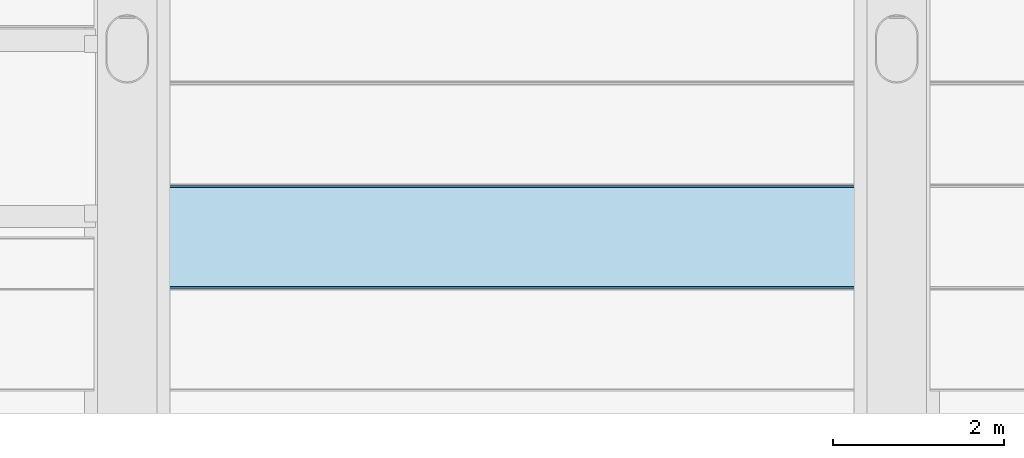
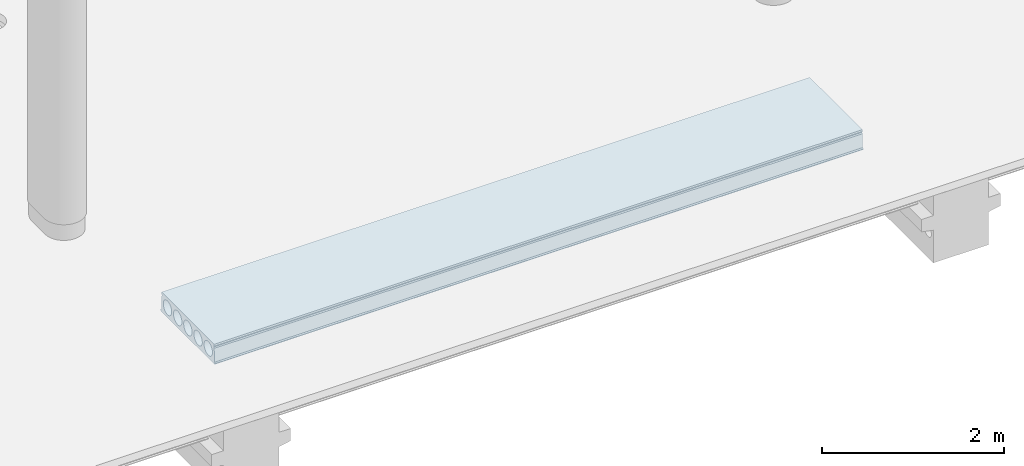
# One storey, part 9 of 34: 1 slab.
"""IFC2X3 building model written with IfcOpenShell, lengths in millimetres."""

import ifcopenshell
import ifcopenshell.guid

model = None  # the IFC model being written
_history = None  # IfcOwnerHistory: only IFC2X3 demands one
_inside = {}  # id of a spatial element -> (the spatial element, [elements in it])
_under = {}  # id of a project, library or spatial element -> (it, [spatial elements below it])
_declared = {}  # id of a project -> (the project, [libraries it declares])
_typed = {}  # id of a type object -> (the type object, [elements of that type])
_made_of = {}  # id of a material, layer set ... -> (it, [elements and type objects made of it])


def new_model(schema):
    """Start an empty IFC model of exactly this schema.

    Asked for "IFC4X3", IfcOpenShell would pick the latest addendum, in which some entities
    have other attributes; the version numbers below select the first issue.
    IFC2X3 requires an IfcOwnerHistory on every rooted entity: one is made here for all.
    """
    global model, _history
    if schema == "IFC4X3":
        model = ifcopenshell.file(schema_version=(4, 3, 0, 0))
    else:
        model = ifcopenshell.file(schema=schema)
    _inside.clear()
    _under.clear()
    _declared.clear()
    _typed.clear()
    _made_of.clear()
    _history = None
    if model.schema == "IFC2X3":
        org = make("IfcOrganization", Name="unknown")
        user = make(
            "IfcPersonAndOrganization",
            ThePerson=make("IfcPerson", FamilyName="unknown"),
            TheOrganization=org,
        )
        app = make(
            "IfcApplication",
            ApplicationDeveloper=org,
            Version="unknown",
            ApplicationFullName="unknown",
            ApplicationIdentifier="unknown",
        )
        _history = make(
            "IfcOwnerHistory",
            OwningUser=user,
            OwningApplication=app,
            ChangeAction="ADDED",
            CreationDate=0,
        )
    return model


def make(cls, **values):
    """One entity of the class cls with the attributes given. An attribute that is None is left unset."""
    return model.create_entity(
        cls, **{name: value for name, value in values.items() if value is not None}
    )


def entity(cls, *values):
    """Any entity or typed value of the class cls, its attributes in the order of the schema. None: left unset."""
    e = model.create_entity(cls)
    for i, value in enumerate(values):
        if value is not None:
            e[i] = value
    return e


def rooted(cls, **values):
    """An entity with a GlobalId (a new one), such as an element, a storey or a relation."""
    return make(cls, GlobalId=ifcopenshell.guid.new(), OwnerHistory=_history, **values)


def si_unit(unit_type, name, prefix=None):
    """IfcSIUnit, for example si_unit("LENGTHUNIT", "METRE", prefix="MILLI")."""
    return make("IfcSIUnit", UnitType=unit_type, Prefix=prefix, Name=name)


def converted_unit(unit_type, name, factor, base, dimensions=None, offset=None):
    """IfcConversionBasedUnit, such as the inch: factor (a typed value) times the base unit."""
    return make(
        "IfcConversionBasedUnit"
        if offset is None
        else "IfcConversionBasedUnitWithOffset",
        ConversionOffset=offset,
        Dimensions=None
        if dimensions is None
        else entity("IfcDimensionalExponents", *dimensions),
        UnitType=unit_type,
        Name=name,
        ConversionFactor=make(
            "IfcMeasureWithUnit", ValueComponent=factor, UnitComponent=base
        ),
    )


def derived_unit(unit_type, elements):
    """IfcDerivedUnit: a product of units, each with its exponent."""
    return make(
        "IfcDerivedUnit",
        Elements=[
            make("IfcDerivedUnitElement", Unit=unit, Exponent=power)
            for unit, power in elements
        ],
        UnitType=unit_type,
    )


def assignment(units):
    """IfcUnitAssignment: the units of a project."""
    return None if units is None else make("IfcUnitAssignment", Units=units)


def point(xyz):
    """IfcCartesianPoint."""
    return None if xyz is None else make("IfcCartesianPoint", Coordinates=xyz)


def direction(xyz):
    """IfcDirection."""
    return None if xyz is None else make("IfcDirection", DirectionRatios=xyz)


def frame(location, z_axis=None, x_axis=None):
    """IfcAxis2Placement3D, a coordinate frame: its origin and axes. An axis left out is left unset."""
    return make(
        "IfcAxis2Placement3D",
        Location=point(location),
        Axis=direction(z_axis),
        RefDirection=direction(x_axis),
    )


def origin_with_axes():
    """The frame at (0, 0, 0) with the z axis (0, 0, 1) and the x axis (1, 0, 0) written out."""
    return frame((0.0, 0.0, 0.0), z_axis=(0.0, 0.0, 1.0), x_axis=(1.0, 0.0, 0.0))


def place(relative_to, where):
    """IfcLocalPlacement: puts the frame where relative to a parent placement (None: the world)."""
    return make(
        "IfcLocalPlacement", PlacementRelTo=relative_to, RelativePlacement=where
    )


def context(
    kind, dimensions, precision=None, world=None, true_north=None, identifier=None
):
    """IfcGeometricRepresentationContext, for example the 3D "Model" context."""
    return make(
        "IfcGeometricRepresentationContext",
        ContextIdentifier=identifier,
        ContextType=kind,
        CoordinateSpaceDimension=dimensions,
        Precision=precision,
        WorldCoordinateSystem=world,
        TrueNorth=true_north,
    )


def subcontext(parent, identifier, kind, view, scale=None):
    """IfcGeometricRepresentationSubContext, for example "Body" below "Model"."""
    return make(
        "IfcGeometricRepresentationSubContext",
        ContextIdentifier=identifier,
        ContextType=kind,
        ParentContext=parent,
        TargetScale=scale,
        TargetView=view,
    )


def project(units=None, contexts=None):
    """IfcProject with its units and contexts."""
    return rooted(
        "IfcProject",
        Name="project",
        RepresentationContexts=contexts,
        UnitsInContext=assignment(units),
    )


def spatial(cls, under=None, at=None, **own):
    """A site, building, storey or space (cls), placed at a placement, below another one or the project."""
    s = rooted(cls, ObjectPlacement=at, **own)
    if under is not None:
        _under.setdefault(under.id(), (under, []))[1].append(s)
    return s


def polyline(points):
    """IfcPolyline through the points."""
    return make("IfcPolyline", Points=[point(p) for p in points])


def outline(outer, holes=None, kind="AREA"):
    """IfcArbitraryClosedProfileDef: a profile drawn as a closed curve; with holes, ...WithVoids."""
    if holes is None:
        return make("IfcArbitraryClosedProfileDef", ProfileType=kind, OuterCurve=outer)
    return make(
        "IfcArbitraryProfileDefWithVoids",
        ProfileType=kind,
        OuterCurve=outer,
        InnerCurves=holes,
    )


def extrude(swept, where, along, depth):
    """IfcExtrudedAreaSolid: the profile swept, set in the frame where, extruded along a direction by depth."""
    return make(
        "IfcExtrudedAreaSolid",
        SweptArea=swept,
        Position=where,
        ExtrudedDirection=direction(along),
        Depth=depth,
    )


def shape(context_of_items, identifier, shape_type, items):
    """IfcShapeRepresentation: the items that make up one representation, for example the "Body"."""
    return make(
        "IfcShapeRepresentation",
        ContextOfItems=context_of_items,
        RepresentationIdentifier=identifier,
        RepresentationType=shape_type,
        Items=items,
    )


def material(Name=None, Category=None):
    """IfcMaterial."""
    return make("IfcMaterial", Name=Name, Category=Category)


def made_of(thing, what):
    """Note that an element or type object is made of a material, layer set ...; save() writes the relation."""
    if what is not None:
        _made_of.setdefault(what.id(), (what, []))[1].append(thing)
    return thing


def type_object(cls, material=None, **own):
    """A type object (cls), such as IfcWallType, which elements share."""
    return made_of(rooted(cls, **own), material)


def element(
    cls,
    number,
    at=None,
    inside=None,
    cuts=None,
    type_object=None,
    material=None,
    context=None,
    identifier="Body",
    shape_type=None,
    held_by="IfcProductDefinitionShape",
    body=None,
    shapes=None,
    **own,
):
    """One element of the class cls, such as IfcWall. Its Tag is "e" and its number.

    at: its placement. inside: the storey or other place that contains it. cuts: it is an
    opening in that element (IfcRelVoidsElement). A single representation is given by context,
    identifier, shape_type and body (its items); several are given by shapes. held_by: the class
    of the entity that holds the representations. save() writes the other relations.
    """
    e = rooted(cls, Tag="e%d" % number, ObjectPlacement=at, **own)
    if body is not None:
        shapes = [shape(context, identifier, shape_type, body)]
    if shapes is not None:
        e.Representation = make(held_by, Representations=shapes)
    if inside is not None:
        _inside.setdefault(inside.id(), (inside, []))[1].append(e)
    if cuts is not None:
        rooted(
            "IfcRelVoidsElement", RelatingBuildingElement=cuts, RelatedOpeningElement=e
        )
    if type_object is not None:
        _typed.setdefault(type_object.id(), (type_object, []))[1].append(e)
    return made_of(e, material)


def aggregate(whole, parts):
    """IfcRelAggregates: a whole, such as a stair, and the parts it consists of."""
    return rooted("IfcRelAggregates", RelatingObject=whole, RelatedObjects=parts)


def save(model, path):
    """Write the relations noted so far, then the file.

    IfcRelAggregates (storeys below a building ...), IfcRelContainedInSpatialStructure (elements
    in a storey), IfcRelDefinesByType, IfcRelAssociatesMaterial and IfcRelDeclares: one each for
    every whole, place, type object, material and project.
    """
    for whole, parts in _under.values():
        aggregate(whole, parts)
    for where, things in _inside.values():
        rooted(
            "IfcRelContainedInSpatialStructure",
            RelatedElements=things,
            RelatingStructure=where,
        )
    for kind, things in _typed.values():
        rooted("IfcRelDefinesByType", RelatedObjects=things, RelatingType=kind)
    for what, things in _made_of.values():
        rooted("IfcRelAssociatesMaterial", RelatedObjects=things, RelatingMaterial=what)
    for by, libraries in _declared.values():
        rooted("IfcRelDeclares", RelatingContext=by, RelatedDefinitions=libraries)
    model.write(path)


model = new_model("IFC2X3")

# Units and contexts
model_context = context("Model", 3, precision=0.01, world=frame((0.0, 4.29681676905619e-09, 0.0)), true_north=direction((4.01073788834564e-13, 1.0)))
plan_context = context("Plan", 3, precision=0.01, world=frame((0.0, 4.29681676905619e-09, 0.0)), true_north=direction((4.01073788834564e-13, 1.0)))
body_context = subcontext(model_context, "Body", "Model", "MODEL_VIEW")
ifc_project = project(units=[converted_unit("PLANEANGLEUNIT", "DEGREE", entity("IfcPositiveLengthMeasure", 0.0174532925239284), si_unit("PLANEANGLEUNIT", "RADIAN"), dimensions=[0, 0, 0, 0, 0, 0, 0]), si_unit("AREAUNIT", "SQUARE_METRE"), si_unit("LENGTHUNIT", "METRE", prefix="MILLI"), si_unit("MASSUNIT", "GRAM", prefix="KILO"), si_unit("POWERUNIT", "WATT"), si_unit("PRESSUREUNIT", "PASCAL"), si_unit("FORCEUNIT", "NEWTON", prefix="KILO"), si_unit("ELECTRICVOLTAGEUNIT", "VOLT"), si_unit("ELECTRICCURRENTUNIT", "AMPERE"), si_unit("THERMODYNAMICTEMPERATUREUNIT", "DEGREE_CELSIUS"), si_unit("TIMEUNIT", "SECOND"), si_unit("VOLUMEUNIT", "CUBIC_METRE"), derived_unit("LINEARVELOCITYUNIT", [(si_unit("LENGTHUNIT", "METRE"), 1), (si_unit("TIMEUNIT", "SECOND"), -1)]), derived_unit("VOLUMETRICFLOWRATEUNIT", [(si_unit("VOLUMEUNIT", "CUBIC_METRE"), 1), (si_unit("TIMEUNIT", "SECOND"), -1)]), derived_unit("THERMALTRANSMITTANCEUNIT", [(si_unit("POWERUNIT", "WATT"), 1), (si_unit("THERMODYNAMICTEMPERATUREUNIT", "KELVIN"), -1), (si_unit("AREAUNIT", "SQUARE_METRE"), -1)]), derived_unit("SOUNDPRESSUREUNIT", [(si_unit("PRESSUREUNIT", "PASCAL"), 1)])], contexts=[model_context, plan_context])

# Site, building, storey
site_placement = place(None, frame((0.0, -4.29681676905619e-09, 0.0), z_axis=(0.0, 0.0, 1.0), x_axis=(1.0, 0.0, 0.0)))
site = spatial("IfcSite", under=ifc_project, at=site_placement, Name="Gardermoen", CompositionType="ELEMENT")
building_placement = place(site_placement, frame((0.0, 4.29681676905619e-09, 0.0), z_axis=(0.0, 0.0, 1.0), x_axis=(1.0, 0.0, 0.0)))
building = spatial("IfcBuilding", under=site, at=building_placement, Name="TH", CompositionType="ELEMENT")
storey_placement = place(building_placement, origin_with_axes())
storey = spatial("IfcBuildingStorey", under=building, at=storey_placement, Name="F", CompositionType="ELEMENT", Elevation=0.0)

# Slab
ifc_material = material(Name="CONCRETE/C45/55")
slab_type = type_object("IfcSlabType", Name="HD265", PredefinedType="NOTDEFINED")
slab_placement = place(storey_placement, frame((898389.999766, 478099.989724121, 209897.5), z_axis=(0.0, 0.0, 1.0), x_axis=(1.0, 0.0, 0.0)))
element("IfcSlab", 1, at=slab_placement, inside=storey, type_object=slab_type, material=ifc_material, Name="HULLDEKKE", ObjectType="HD265", PredefinedType="FLOOR", context=body_context, shape_type="SweptSolid", body=[
    extrude(outline(polyline([(-583.380004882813, -132.5), (-600.0, -122.5), (-600.0, -112.5), (-585.0, -102.5), (-577.5, 77.5), (-570.0, 92.5), (-577.5, 107.5), (-577.5, 132.5), (577.5, 132.5), (577.5, 107.5), (570.0, 92.5), (577.5, 77.5), (585.0, -102.5), (600.0, -112.5), (600.0, -122.5), (583.380004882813, -132.5), (-583.380004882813, -132.5)]), holes=[polyline([(-539.238420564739, 15.2249996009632), (-540.184065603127, 7.63858945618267), (-540.5, 0.0), (-540.184065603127, -7.63858945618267), (-539.238420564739, -15.2249996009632), (-537.669524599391, -22.7074075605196), (-535.488094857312, -30.0347009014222), (-532.709032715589, -37.1568267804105), (-529.351321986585, -44.0251338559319), (-525.437899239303, -50.5927046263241), (-520.995497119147, -56.8146759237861), (-516.05446173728, -62.6485453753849), (-510.648545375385, -68.0544617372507), (-504.814675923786, -72.9954971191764), (-498.592704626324, -77.437899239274), (-492.025133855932, -81.3513219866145), (-485.15682678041, -84.7090327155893), (-478.034700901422, -87.4880948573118), (-470.707407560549, -89.6695245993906), (-463.224999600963, -91.2384205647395), (-455.638589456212, -92.1840656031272), (-448.0, -92.5), (-440.361410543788, -92.1840656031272), (-432.775000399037, -91.2384205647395), (-425.292592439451, -89.6695245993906), (-417.965299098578, -87.4880948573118), (-410.84317321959, -84.7090327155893), (-403.974866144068, -81.3513219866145), (-397.407295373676, -77.437899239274), (-391.185324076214, -72.9954971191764), (-385.351454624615, -68.0544617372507), (-379.94553826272, -62.6485453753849), (-375.004502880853, -56.8146759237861), (-370.562100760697, -50.5927046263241), (-366.648678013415, -44.0251338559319), (-363.290967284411, -37.1568267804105), (-360.511905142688, -30.0347009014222), (-358.330475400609, -22.7074075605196), (-356.761579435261, -15.2249996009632), (-355.815934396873, -7.63858945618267), (-355.5, 0.0), (-355.815934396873, 7.63858945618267), (-356.761579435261, 15.2249996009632), (-358.330475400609, 22.7074075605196), (-360.511905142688, 30.0347009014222), (-363.290967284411, 37.1568267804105), (-366.648678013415, 44.0251338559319), (-370.562100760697, 50.5927046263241), (-375.004502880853, 56.8146759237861), (-379.94553826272, 62.6485453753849), (-385.351454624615, 68.0544617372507), (-391.185324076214, 72.9954971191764), (-397.407295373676, 77.437899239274), (-403.974866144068, 81.3513219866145), (-410.84317321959, 84.7090327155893), (-417.965299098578, 87.4880948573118), (-425.292592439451, 89.6695245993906), (-432.775000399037, 91.2384205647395), (-440.361410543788, 92.1840656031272), (-448.0, 92.5), (-455.638589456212, 92.1840656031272), (-463.224999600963, 91.2384205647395), (-470.707407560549, 89.6695245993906), (-478.034700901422, 87.4880948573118), (-485.15682678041, 84.7090327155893), (-492.025133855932, 81.3513219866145), (-498.592704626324, 77.437899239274), (-504.814675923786, 72.9954971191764), (-510.648545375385, 68.0544617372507), (-516.05446173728, 62.6485453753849), (-520.995497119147, 56.8146759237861), (-525.437899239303, 50.5927046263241), (-529.351321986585, 44.0251338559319), (-532.709032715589, 37.1568267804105), (-535.488094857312, 30.0347009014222), (-537.669524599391, 22.7074075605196), (-539.238420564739, 15.2249996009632)]), polyline([(-315.238420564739, 15.2249996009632), (-316.184065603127, 7.63858945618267), (-316.5, 0.0), (-316.184065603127, -7.63858945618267), (-315.238420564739, -15.2249996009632), (-313.669524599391, -22.7074075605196), (-311.488094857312, -30.0347009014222), (-308.709032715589, -37.1568267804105), (-305.351321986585, -44.0251338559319), (-301.437899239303, -50.5927046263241), (-296.995497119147, -56.8146759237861), (-292.05446173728, -62.6485453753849), (-286.648545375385, -68.0544617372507), (-280.814675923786, -72.9954971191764), (-274.592704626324, -77.437899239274), (-268.025133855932, -81.3513219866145), (-261.15682678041, -84.7090327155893), (-254.034700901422, -87.4880948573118), (-246.707407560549, -89.6695245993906), (-239.224999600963, -91.2384205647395), (-231.638589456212, -92.1840656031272), (-224.0, -92.5), (-216.361410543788, -92.1840656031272), (-208.775000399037, -91.2384205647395), (-201.292592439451, -89.6695245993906), (-193.965299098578, -87.4880948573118), (-186.84317321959, -84.7090327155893), (-179.974866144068, -81.3513219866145), (-173.407295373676, -77.437899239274), (-167.185324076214, -72.9954971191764), (-161.351454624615, -68.0544617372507), (-155.94553826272, -62.6485453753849), (-151.004502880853, -56.8146759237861), (-146.562100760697, -50.5927046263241), (-142.648678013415, -44.0251338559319), (-139.290967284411, -37.1568267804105), (-136.511905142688, -30.0347009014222), (-134.330475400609, -22.7074075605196), (-132.761579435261, -15.2249996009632), (-131.815934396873, -7.63858945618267), (-131.5, 0.0), (-131.815934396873, 7.63858945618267), (-132.761579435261, 15.2249996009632), (-134.330475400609, 22.7074075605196), (-136.511905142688, 30.0347009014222), (-139.290967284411, 37.1568267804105), (-142.648678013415, 44.0251338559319), (-146.562100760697, 50.5927046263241), (-151.004502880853, 56.8146759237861), (-155.94553826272, 62.6485453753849), (-161.351454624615, 68.0544617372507), (-167.185324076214, 72.9954971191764), (-173.407295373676, 77.437899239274), (-179.974866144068, 81.3513219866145), (-186.84317321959, 84.7090327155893), (-193.965299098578, 87.4880948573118), (-201.292592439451, 89.6695245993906), (-208.775000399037, 91.2384205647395), (-216.361410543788, 92.1840656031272), (-224.0, 92.5), (-231.638589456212, 92.1840656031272), (-239.224999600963, 91.2384205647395), (-246.707407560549, 89.6695245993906), (-254.034700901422, 87.4880948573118), (-261.15682678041, 84.7090327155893), (-268.025133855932, 81.3513219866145), (-274.592704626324, 77.437899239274), (-280.814675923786, 72.9954971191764), (-286.648545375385, 68.0544617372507), (-292.05446173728, 62.6485453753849), (-296.995497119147, 56.8146759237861), (-301.437899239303, 50.5927046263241), (-305.351321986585, 44.0251338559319), (-308.709032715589, 37.1568267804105), (-311.488094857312, 30.0347009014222), (-313.669524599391, 22.7074075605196), (-315.238420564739, 15.2249996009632)]), polyline([(-91.2384205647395, 15.2249996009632), (-92.1840656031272, 7.63858945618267), (-92.5, 0.0), (-92.1840656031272, -7.63858945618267), (-91.2384205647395, -15.2249996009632), (-89.6695245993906, -22.7074075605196), (-87.4880948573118, -30.0347009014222), (-84.7090327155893, -37.1568267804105), (-81.3513219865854, -44.0251338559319), (-77.4378992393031, -50.5927046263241), (-72.9954971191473, -56.8146759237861), (-68.0544617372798, -62.6485453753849), (-62.6485453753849, -68.0544617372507), (-56.8146759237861, -72.9954971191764), (-50.5927046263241, -77.437899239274), (-44.0251338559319, -81.3513219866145), (-37.1568267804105, -84.7090327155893), (-30.0347009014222, -87.4880948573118), (-22.7074075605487, -89.6695245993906), (-15.2249996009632, -91.2384205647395), (-7.63858945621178, -92.1840656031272), (0.0, -92.5), (7.63858945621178, -92.1840656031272), (15.2249996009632, -91.2384205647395), (22.7074075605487, -89.6695245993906), (30.0347009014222, -87.4880948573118), (37.1568267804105, -84.7090327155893), (44.0251338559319, -81.3513219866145), (50.5927046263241, -77.437899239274), (56.8146759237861, -72.9954971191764), (62.6485453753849, -68.0544617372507), (68.0544617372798, -62.6485453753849), (72.9954971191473, -56.8146759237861), (77.4378992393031, -50.5927046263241), (81.3513219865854, -44.0251338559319), (84.7090327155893, -37.1568267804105), (87.4880948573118, -30.0347009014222), (89.6695245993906, -22.7074075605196), (91.2384205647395, -15.2249996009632), (92.1840656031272, -7.63858945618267), (92.5, 0.0), (92.1840656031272, 7.63858945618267), (91.2384205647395, 15.2249996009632), (89.6695245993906, 22.7074075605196), (87.4880948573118, 30.0347009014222), (84.7090327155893, 37.1568267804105), (81.3513219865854, 44.0251338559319), (77.4378992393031, 50.5927046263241), (72.9954971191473, 56.8146759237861), (68.0544617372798, 62.6485453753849), (62.6485453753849, 68.0544617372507), (56.8146759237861, 72.9954971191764), (50.5927046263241, 77.437899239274), (44.0251338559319, 81.3513219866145), (37.1568267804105, 84.7090327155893), (30.0347009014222, 87.4880948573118), (22.7074075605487, 89.6695245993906), (15.2249996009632, 91.2384205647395), (7.63858945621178, 92.1840656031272), (0.0, 92.5), (-7.63858945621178, 92.1840656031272), (-15.2249996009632, 91.2384205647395), (-22.7074075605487, 89.6695245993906), (-30.0347009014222, 87.4880948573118), (-37.1568267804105, 84.7090327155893), (-44.0251338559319, 81.3513219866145), (-50.5927046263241, 77.437899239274), (-56.8146759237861, 72.9954971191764), (-62.6485453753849, 68.0544617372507), (-68.0544617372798, 62.6485453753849), (-72.9954971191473, 56.8146759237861), (-77.4378992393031, 50.5927046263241), (-81.3513219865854, 44.0251338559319), (-84.7090327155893, 37.1568267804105), (-87.4880948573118, 30.0347009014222), (-89.6695245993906, 22.7074075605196), (-91.2384205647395, 15.2249996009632)]), polyline([(132.761579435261, 15.2249996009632), (131.815934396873, 7.63858945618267), (131.5, 0.0), (131.815934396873, -7.63858945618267), (132.761579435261, -15.2249996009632), (134.330475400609, -22.7074075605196), (136.511905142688, -30.0347009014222), (139.290967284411, -37.1568267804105), (142.648678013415, -44.0251338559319), (146.562100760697, -50.5927046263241), (151.004502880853, -56.8146759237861), (155.94553826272, -62.6485453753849), (161.351454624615, -68.0544617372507), (167.185324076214, -72.9954971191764), (173.407295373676, -77.437899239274), (179.974866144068, -81.3513219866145), (186.84317321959, -84.7090327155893), (193.965299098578, -87.4880948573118), (201.292592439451, -89.6695245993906), (208.775000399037, -91.2384205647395), (216.361410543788, -92.1840656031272), (224.0, -92.5), (231.638589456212, -92.1840656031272), (239.224999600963, -91.2384205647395), (246.707407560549, -89.6695245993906), (254.034700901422, -87.4880948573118), (261.15682678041, -84.7090327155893), (268.025133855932, -81.3513219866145), (274.592704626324, -77.437899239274), (280.814675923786, -72.9954971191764), (286.648545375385, -68.0544617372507), (292.05446173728, -62.6485453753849), (296.995497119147, -56.8146759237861), (301.437899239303, -50.5927046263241), (305.351321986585, -44.0251338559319), (308.709032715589, -37.1568267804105), (311.488094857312, -30.0347009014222), (313.669524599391, -22.7074075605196), (315.238420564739, -15.2249996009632), (316.184065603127, -7.63858945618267), (316.5, 0.0), (316.184065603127, 7.63858945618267), (315.238420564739, 15.2249996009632), (313.669524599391, 22.7074075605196), (311.488094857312, 30.0347009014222), (308.709032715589, 37.1568267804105), (305.351321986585, 44.0251338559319), (301.437899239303, 50.5927046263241), (296.995497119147, 56.8146759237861), (292.05446173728, 62.6485453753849), (286.648545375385, 68.0544617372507), (280.814675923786, 72.9954971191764), (274.592704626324, 77.437899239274), (268.025133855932, 81.3513219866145), (261.15682678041, 84.7090327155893), (254.034700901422, 87.4880948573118), (246.707407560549, 89.6695245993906), (239.224999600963, 91.2384205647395), (231.638589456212, 92.1840656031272), (224.0, 92.5), (216.361410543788, 92.1840656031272), (208.775000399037, 91.2384205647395), (201.292592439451, 89.6695245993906), (193.965299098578, 87.4880948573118), (186.84317321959, 84.7090327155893), (179.974866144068, 81.3513219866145), (173.407295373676, 77.437899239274), (167.185324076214, 72.9954971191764), (161.351454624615, 68.0544617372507), (155.94553826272, 62.6485453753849), (151.004502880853, 56.8146759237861), (146.562100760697, 50.5927046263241), (142.648678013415, 44.0251338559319), (139.290967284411, 37.1568267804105), (136.511905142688, 30.0347009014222), (134.330475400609, 22.7074075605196), (132.761579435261, 15.2249996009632)]), polyline([(356.761579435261, 15.2249996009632), (355.815934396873, 7.63858945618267), (355.5, 0.0), (355.815934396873, -7.63858945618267), (356.761579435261, -15.2249996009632), (358.330475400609, -22.7074075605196), (360.511905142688, -30.0347009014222), (363.290967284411, -37.1568267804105), (366.648678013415, -44.0251338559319), (370.562100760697, -50.5927046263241), (375.004502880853, -56.8146759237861), (379.94553826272, -62.6485453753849), (385.351454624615, -68.0544617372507), (391.185324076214, -72.9954971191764), (397.407295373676, -77.437899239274), (403.974866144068, -81.3513219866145), (410.84317321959, -84.7090327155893), (417.965299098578, -87.4880948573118), (425.292592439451, -89.6695245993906), (432.775000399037, -91.2384205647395), (440.361410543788, -92.1840656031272), (448.0, -92.5), (455.638589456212, -92.1840656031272), (463.224999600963, -91.2384205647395), (470.707407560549, -89.6695245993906), (478.034700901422, -87.4880948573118), (485.15682678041, -84.7090327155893), (492.025133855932, -81.3513219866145), (498.592704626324, -77.437899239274), (504.814675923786, -72.9954971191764), (510.648545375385, -68.0544617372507), (516.05446173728, -62.6485453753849), (520.995497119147, -56.8146759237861), (525.437899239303, -50.5927046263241), (529.351321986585, -44.0251338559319), (532.709032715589, -37.1568267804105), (535.488094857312, -30.0347009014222), (537.669524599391, -22.7074075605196), (539.238420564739, -15.2249996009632), (540.184065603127, -7.63858945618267), (540.5, 0.0), (540.184065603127, 7.63858945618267), (539.238420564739, 15.2249996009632), (537.669524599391, 22.7074075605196), (535.488094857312, 30.0347009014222), (532.709032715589, 37.1568267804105), (529.351321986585, 44.0251338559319), (525.437899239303, 50.5927046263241), (520.995497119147, 56.8146759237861), (516.05446173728, 62.6485453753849), (510.648545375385, 68.0544617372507), (504.814675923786, 72.9954971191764), (498.592704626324, 77.437899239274), (492.025133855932, 81.3513219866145), (485.15682678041, 84.7090327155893), (478.034700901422, 87.4880948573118), (470.707407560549, 89.6695245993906), (463.224999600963, 91.2384205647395), (455.638589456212, 92.1840656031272), (448.0, 92.5), (440.361410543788, 92.1840656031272), (432.775000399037, 91.2384205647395), (425.292592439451, 89.6695245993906), (417.965299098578, 87.4880948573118), (410.84317321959, 84.7090327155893), (403.974866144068, 81.3513219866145), (397.407295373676, 77.437899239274), (391.185324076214, 72.9954971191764), (385.351454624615, 68.0544617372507), (379.94553826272, 62.6485453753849), (375.004502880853, 56.8146759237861), (370.562100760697, 50.5927046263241), (366.648678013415, 44.0251338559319), (363.290967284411, 37.1568267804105), (360.511905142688, 30.0347009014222), (358.330475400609, 22.7074075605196), (356.761579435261, 15.2249996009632)])]), frame((8220.0, 0.0, 0.0), z_axis=(-1.0, 0.0, 6.61744490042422e-24), x_axis=(0.0, -1.0, 0.0)), (0.0, 0.0, 1.0), 8220.0),
])

save(model, "model.ifc")
